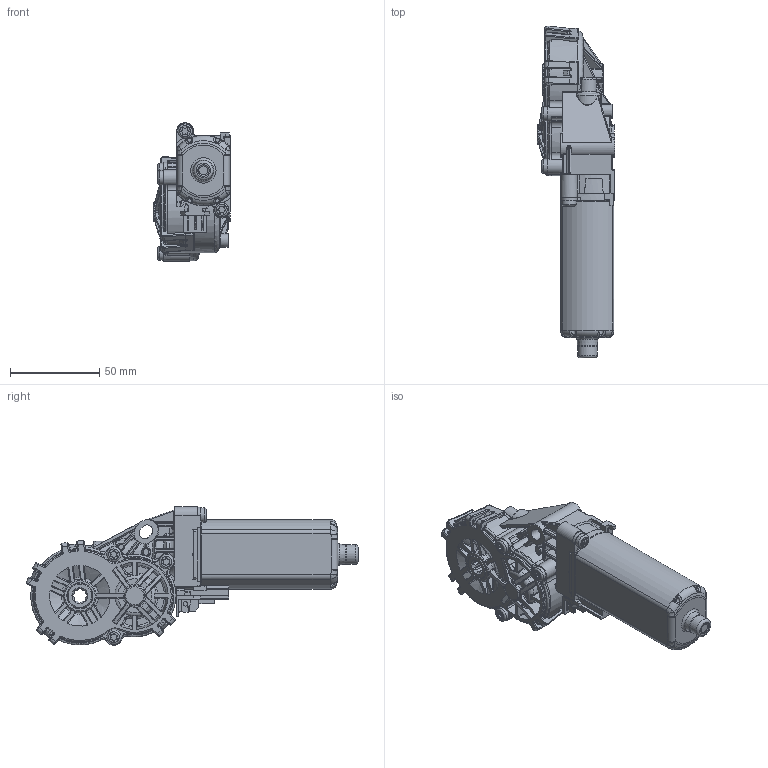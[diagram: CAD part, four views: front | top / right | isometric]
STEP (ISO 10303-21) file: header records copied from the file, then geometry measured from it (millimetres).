
FILE_DESCRIPTION(/* description */ (''),/* implementation_level */ '2;1');
FILE_NAME(/* name */ '0390203311.stp',/* time_stamp */ '2013-02-11T16:45:46+05:00',/* author */ (''),/* organization */ (''),/* preprocessor_version */ 'ST-DEVELOPER v11',/* originating_system */ 'SIEMENS PLM Software NX 7.5',/* authorisation */ '');
FILE_SCHEMA (('AUTOMOTIVE_DESIGN { 1 0 10303 214 1 1 1 1 }'));
Products named in the file (1): eas2A7B41ya6
Bounding box: 43.25 x 185.84 x 77.54 mm (x, y, z)
Volume: 214017.8 mm3; surface area: 43908.7 mm2
Topology: 1 solids, 15 shells, 2543 faces, 6321 edges, 3695 vertices
Faces by surface type: cylinder 905, plane 602, bspline 474, torus 319, sphere 134, cone 91, revolution 18
Full cylindrical faces by diameter (mm): 2.5 x2, 3.1 x3, 4.5 x4, 7.6 x1, 8 x6, 11 x3, 14 x2, 18 x1
Entity records: 116510 total; most frequent: CARTESIAN_POINT 44587, ORIENTED_EDGE 12284, DIRECTION 9822, EDGE_CURVE 6142, AXIS2_PLACEMENT_3D 3862, VERTEX_POINT 3666, EDGE_LOOP 2622, ADVANCED_FACE 2543
